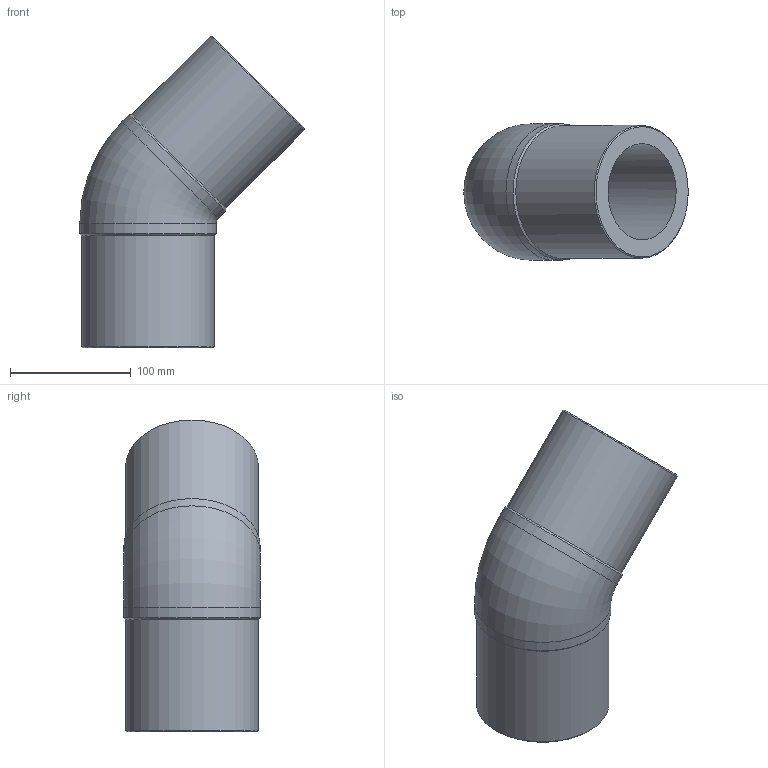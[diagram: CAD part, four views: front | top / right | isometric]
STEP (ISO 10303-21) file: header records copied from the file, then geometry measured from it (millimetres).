
FILE_DESCRIPTION(/* description */ ('Unknown'),/* implementation_level */ '2;1');
FILE_NAME(/* name */ 'G4P110H',/* time_stamp */ '2022-01-17T09:11:34+01:00',/* author */ ('Unknown'),/* organization */ ('Unknown'),/* preprocessor_version */ 'ST-DEVELOPER v18.1',/* originating_system */ 'Solid Edge',/* authorisation */ 'Unknown');
FILE_SCHEMA (('AUTOMOTIVE_DESIGN {1 0 10303 214 3 1 1}'));
Length unit declared in the file: millimetre
Products named in the file (1): G4P110H
Bounding box: 185.9 x 113 x 258.4 mm (x, y, z)
Volume: 1186430.7 mm3; surface area: 161930.8 mm2
Topology: 1 solids, 1 shells, 14 faces, 34 edges, 22 vertices
Faces by surface type: cylinder 6, cone 4, plane 2, torus 2
Full cylindrical faces by diameter (mm): 79.8 x2, 110 x2, 113 x2
Entity records: 366 total; most frequent: CARTESIAN_POINT 66, DIRECTION 60, ORIENTED_EDGE 38, AXIS2_PLACEMENT_3D 30, EDGE_LOOP 27, FACE_BOUND 27, EDGE_CURVE 19, VERTEX_POINT 18
